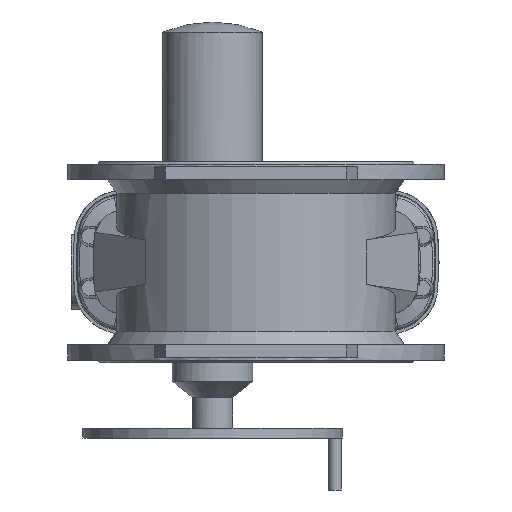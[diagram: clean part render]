
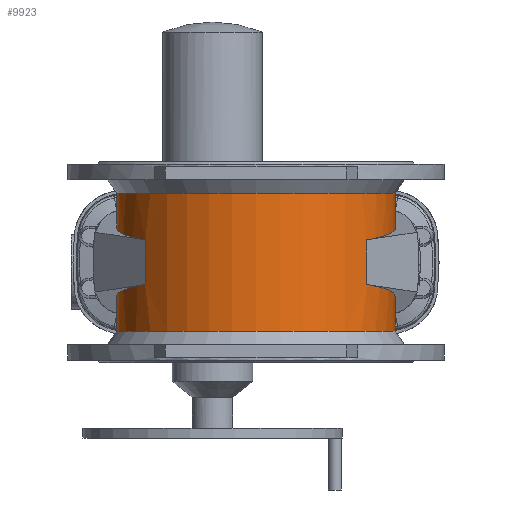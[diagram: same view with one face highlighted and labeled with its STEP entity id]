
A CAD part, front view. The second image highlights one B-rep face of the part: STEP entity #9923.
In plain terms, the highlighted cylindrical face has radius 214.499 mm (diameter 428.998 mm), a partial arc.
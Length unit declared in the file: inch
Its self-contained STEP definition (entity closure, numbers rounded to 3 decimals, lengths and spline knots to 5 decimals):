
#929 = DIRECTION ( 'NONE',  ( 1., 0., 0. ) ) ;
#936 = DIRECTION ( 'NONE',  ( 0., 0., 1. ) ) ;
#937 = CARTESIAN_POINT ( 'NONE',  ( 0., 0., -19685.03937 ) ) ;
#2243 = EDGE_LOOP ( 'NONE', ( #6553, #6554, #6555, #6556, #6557, #6558, #6559, #6560, #6561, #6562, #6563, #6564 ) ) ;
#3794 = FACE_OUTER_BOUND ( 'NONE', #2243, .T. ) ;
#3798 = CYLINDRICAL_SURFACE ( 'NONE', #16909, 8.44485 ) ;
#4817 = CARTESIAN_POINT ( 'NONE',  ( 0.31496, 8.43897, 3.37373 ) ) ;
#4828 = CARTESIAN_POINT ( 'NONE',  ( 6.72305, -5.11039, -1.35654 ) ) ;
#4833 = CARTESIAN_POINT ( 'NONE',  ( 6.72305, -5.11039, 1.35654 ) ) ;
#6227 = VERTEX_POINT ( 'NONE', #7154 ) ;
#6321 = VERTEX_POINT ( 'NONE', #7163 ) ;
#6329 = VERTEX_POINT ( 'NONE', #7168 ) ;
#6354 = VERTEX_POINT ( 'NONE', #7193 ) ;
#6370 = VERTEX_POINT ( 'NONE', #7209 ) ;
#6381 = VERTEX_POINT ( 'NONE', #7220 ) ;
#6403 = VERTEX_POINT ( 'NONE', #7242 ) ;
#6424 = VERTEX_POINT ( 'NONE', #7263 ) ;
#6464 = VERTEX_POINT ( 'NONE', #7303 ) ;
#6553 = ORIENTED_EDGE ( 'NONE', *, *, #10636, .F. ) ;
#6554 = ORIENTED_EDGE ( 'NONE', *, *, #10586, .F. ) ;
#6555 = ORIENTED_EDGE ( 'NONE', *, *, #10616, .F. ) ;
#6556 = ORIENTED_EDGE ( 'NONE', *, *, #10547, .F. ) ;
#6557 = ORIENTED_EDGE ( 'NONE', *, *, #10262, .F. ) ;
#6558 = ORIENTED_EDGE ( 'NONE', *, *, #10566, .T. ) ;
#6559 = ORIENTED_EDGE ( 'NONE', *, *, #10452, .F. ) ;
#6560 = ORIENTED_EDGE ( 'NONE', *, *, #10424, .F. ) ;
#6561 = ORIENTED_EDGE ( 'NONE', *, *, #10360, .F. ) ;
#6562 = ORIENTED_EDGE ( 'NONE', *, *, #10298, .F. ) ;
#6563 = ORIENTED_EDGE ( 'NONE', *, *, #10387, .F. ) ;
#6564 = ORIENTED_EDGE ( 'NONE', *, *, #10606, .T. ) ;
#6685 = VERTEX_POINT ( 'NONE', #4817 ) ;
#6691 = VERTEX_POINT ( 'NONE', #4828 ) ;
#6696 = VERTEX_POINT ( 'NONE', #4833 ) ;
#7154 = CARTESIAN_POINT ( 'NONE',  ( 0.31496, 8.43897, -3.37373 ) ) ;
#7163 = CARTESIAN_POINT ( 'NONE',  ( -0.31496, 8.43897, 4.18467 ) ) ;
#7168 = CARTESIAN_POINT ( 'NONE',  ( -6.72305, -5.11039, 1.35654 ) ) ;
#7193 = CARTESIAN_POINT ( 'NONE',  ( -6.72305, -5.11039, -1.35654 ) ) ;
#7209 = CARTESIAN_POINT ( 'NONE',  ( -0.31496, 8.43897, 3.37373 ) ) ;
#7220 = CARTESIAN_POINT ( 'NONE',  ( 0.31496, 8.43897, 4.18467 ) ) ;
#7242 = CARTESIAN_POINT ( 'NONE',  ( -0.31496, 8.43897, -3.37373 ) ) ;
#7263 = CARTESIAN_POINT ( 'NONE',  ( 0.31496, 8.43897, -4.18467 ) ) ;
#7303 = CARTESIAN_POINT ( 'NONE',  ( -0.31496, 8.43897, -4.18467 ) ) ;
#7526 = LINE ( 'NONE', #8692, #7560 ) ;
#7560 = VECTOR ( 'NONE', #8684, 39.37008 ) ;
#7649 = LINE ( 'NONE', #9156, #7652 ) ;
#7652 = VECTOR ( 'NONE', #9176, 39.37008 ) ;
#7669 = LINE ( 'NONE', #9379, #7672 ) ;
#7672 = VECTOR ( 'NONE', #9380, 39.37008 ) ;
#7733 = LINE ( 'NONE', #12103, #7741 ) ;
#7741 = VECTOR ( 'NONE', #12118, 39.37008 ) ;
#7853 = CIRCLE ( 'NONE', #8366, 8.44485 ) ;
#7894 = CIRCLE ( 'NONE', #8381, 8.44485 ) ;
#7902 = LINE ( 'NONE', #12709, #7903 ) ;
#7903 = VECTOR ( 'NONE', #12710, 39.37008 ) ;
#7909 = LINE ( 'NONE', #12792, #7927 ) ;
#7927 = VECTOR ( 'NONE', #12797, 39.37008 ) ;
#8366 = AXIS2_PLACEMENT_3D ( 'NONE', #12506, #12507, #12508 ) ;
#8381 = AXIS2_PLACEMENT_3D ( 'NONE', #12667, #12668, #12669 ) ;
#8684 = DIRECTION ( 'NONE',  ( 0., 0., 1. ) ) ;
#8692 = CARTESIAN_POINT ( 'NONE',  ( -0.31496, 8.43897, -19685.03937 ) ) ;
#8807 = CARTESIAN_POINT ( 'NONE',  ( 8.10815, 8.14811, 3.19548 ) ) ;
#8813 = CARTESIAN_POINT ( 'NONE',  ( 0.31496, 8.43897, 3.37373 ) ) ;
#8817 = CARTESIAN_POINT ( 'NONE',  ( 11.44237, 1.09819, 2.14591 ) ) ;
#8818 = CARTESIAN_POINT ( 'NONE',  ( 6.72305, -5.11039, 1.35654 ) ) ;
#9156 = CARTESIAN_POINT ( 'NONE',  ( 6.72305, -5.11039, -19685.03937 ) ) ;
#9176 = DIRECTION ( 'NONE',  ( 0., 0., -1. ) ) ;
#9379 = CARTESIAN_POINT ( 'NONE',  ( 0.31496, 8.43897, -19685.03937 ) ) ;
#9380 = DIRECTION ( 'NONE',  ( 0., 0., -1. ) ) ;
#9499 = CARTESIAN_POINT ( 'NONE',  ( 6.72305, -5.11039, -1.35654 ) ) ;
#9500 = CARTESIAN_POINT ( 'NONE',  ( 11.44237, 1.09819, -2.14591 ) ) ;
#9504 = CARTESIAN_POINT ( 'NONE',  ( 8.10815, 8.14811, -3.19548 ) ) ;
#9505 = CARTESIAN_POINT ( 'NONE',  ( 0.31496, 8.43897, -3.37373 ) ) ;
#9923 = ADVANCED_FACE ( 'NONE', ( #3794 ), #3798, .T. ) ;
#10262 = EDGE_CURVE ( 'NONE', #6464, #6403, #7526, .T. ) ;
#10298 = EDGE_CURVE ( 'NONE', #6685, #6696, #15282, .T. ) ;
#10360 = EDGE_CURVE ( 'NONE', #6696, #6691, #7649, .T. ) ;
#10387 = EDGE_CURVE ( 'NONE', #6381, #6685, #7669, .T. ) ;
#10424 = EDGE_CURVE ( 'NONE', #6691, #6227, #15330, .T. ) ;
#10452 = EDGE_CURVE ( 'NONE', #6227, #6424, #7733, .T. ) ;
#10547 = EDGE_CURVE ( 'NONE', #6403, #6354, #15382, .T. ) ;
#10566 = EDGE_CURVE ( 'NONE', #6464, #6424, #7853, .T. ) ;
#10586 = EDGE_CURVE ( 'NONE', #6329, #6370, #15389, .T. ) ;
#10606 = EDGE_CURVE ( 'NONE', #6381, #6321, #7894, .T. ) ;
#10616 = EDGE_CURVE ( 'NONE', #6354, #6329, #7902, .T. ) ;
#10636 = EDGE_CURVE ( 'NONE', #6370, #6321, #7909, .T. ) ;
#12103 = CARTESIAN_POINT ( 'NONE',  ( 0.31496, 8.43897, -19685.03937 ) ) ;
#12118 = DIRECTION ( 'NONE',  ( 0., 0., -1. ) ) ;
#12424 = CARTESIAN_POINT ( 'NONE',  ( -0.31496, 8.43897, -3.37373 ) ) ;
#12432 = CARTESIAN_POINT ( 'NONE',  ( -8.10815, 8.14811, -3.19548 ) ) ;
#12448 = CARTESIAN_POINT ( 'NONE',  ( -11.44237, 1.09819, -2.14591 ) ) ;
#12449 = CARTESIAN_POINT ( 'NONE',  ( -6.72305, -5.11039, -1.35654 ) ) ;
#12506 = CARTESIAN_POINT ( 'NONE',  ( 0., 0., -4.18467 ) ) ;
#12507 = DIRECTION ( 'NONE',  ( 0., 0., 1. ) ) ;
#12508 = DIRECTION ( 'NONE',  ( -1., 0., 0. ) ) ;
#12561 = CARTESIAN_POINT ( 'NONE',  ( -6.72305, -5.11039, 1.35654 ) ) ;
#12562 = CARTESIAN_POINT ( 'NONE',  ( -11.44237, 1.09819, 2.14591 ) ) ;
#12567 = CARTESIAN_POINT ( 'NONE',  ( -8.10815, 8.14811, 3.19548 ) ) ;
#12568 = CARTESIAN_POINT ( 'NONE',  ( -0.31496, 8.43897, 3.37373 ) ) ;
#12667 = CARTESIAN_POINT ( 'NONE',  ( 0., 0., 4.18467 ) ) ;
#12668 = DIRECTION ( 'NONE',  ( 0., 0., -1. ) ) ;
#12669 = DIRECTION ( 'NONE',  ( 1., 0., 0. ) ) ;
#12709 = CARTESIAN_POINT ( 'NONE',  ( -6.72305, -5.11039, -19685.03937 ) ) ;
#12710 = DIRECTION ( 'NONE',  ( 0., 0., 1. ) ) ;
#12792 = CARTESIAN_POINT ( 'NONE',  ( -0.31496, 8.43897, -19685.03937 ) ) ;
#12797 = DIRECTION ( 'NONE',  ( 0., 0., 1. ) ) ;
#15282 =( BOUNDED_CURVE ( )  B_SPLINE_CURVE ( 3, ( #8813, #8807, #8817, #8818 ),
 .UNSPECIFIED., .F., .F. ) 
 B_SPLINE_CURVE_WITH_KNOTS ( ( 4, 4 ),
 ( 0.16207, 2.34552 ),
 .UNSPECIFIED. ) 
 CURVE ( )  GEOMETRIC_REPRESENTATION_ITEM ( )  RATIONAL_B_SPLINE_CURVE ( ( 1., 0.641, 0.641, 1. ) ) 
 REPRESENTATION_ITEM ( '' )  );
#15330 =( BOUNDED_CURVE ( )  B_SPLINE_CURVE ( 3, ( #9499, #9500, #9504, #9505 ),
 .UNSPECIFIED., .F., .F. ) 
 B_SPLINE_CURVE_WITH_KNOTS ( ( 4, 4 ),
 ( 0.79608, 2.97952 ),
 .UNSPECIFIED. ) 
 CURVE ( )  GEOMETRIC_REPRESENTATION_ITEM ( )  RATIONAL_B_SPLINE_CURVE ( ( 1., 0.641, 0.641, 1. ) ) 
 REPRESENTATION_ITEM ( '' )  );
#15382 =( BOUNDED_CURVE ( )  B_SPLINE_CURVE ( 3, ( #12424, #12432, #12448, #12449 ),
 .UNSPECIFIED., .F., .F. ) 
 B_SPLINE_CURVE_WITH_KNOTS ( ( 4, 4 ),
 ( 3.30367, 5.48711 ),
 .UNSPECIFIED. ) 
 CURVE ( )  GEOMETRIC_REPRESENTATION_ITEM ( )  RATIONAL_B_SPLINE_CURVE ( ( 1., 0.641, 0.641, 1. ) ) 
 REPRESENTATION_ITEM ( '' )  );
#15389 =( BOUNDED_CURVE ( )  B_SPLINE_CURVE ( 3, ( #12561, #12562, #12567, #12568 ),
 .UNSPECIFIED., .F., .F. ) 
 B_SPLINE_CURVE_WITH_KNOTS ( ( 4, 4 ),
 ( 3.93767, 6.12111 ),
 .UNSPECIFIED. ) 
 CURVE ( )  GEOMETRIC_REPRESENTATION_ITEM ( )  RATIONAL_B_SPLINE_CURVE ( ( 1., 0.641, 0.641, 1. ) ) 
 REPRESENTATION_ITEM ( '' )  );
#16909 = AXIS2_PLACEMENT_3D ( 'NONE', #937, #936, #929 ) ;
